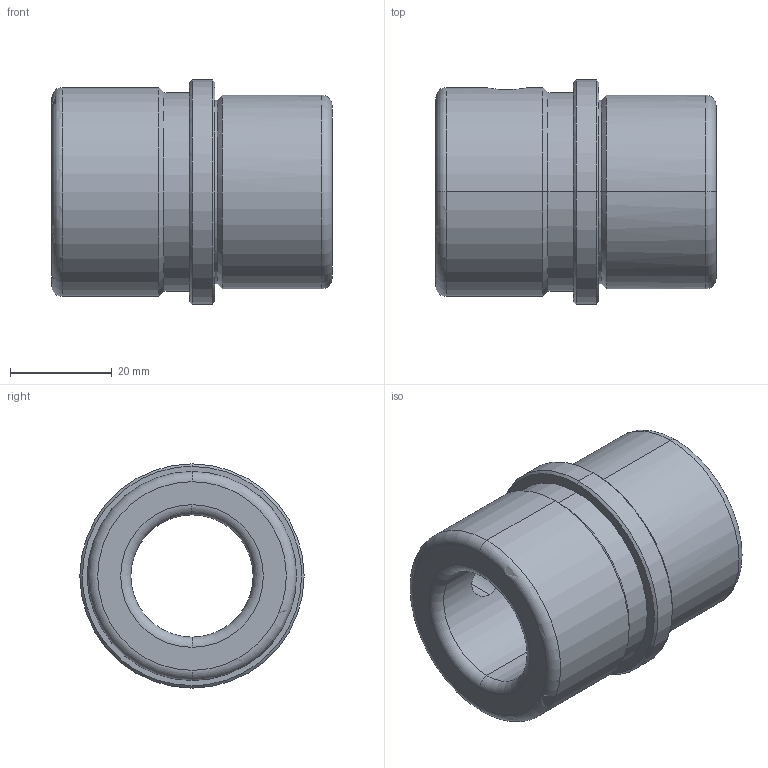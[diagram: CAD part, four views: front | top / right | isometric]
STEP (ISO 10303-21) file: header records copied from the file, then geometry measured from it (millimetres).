
FILE_DESCRIPTION(('CATIA V5 STEP Exchange'),'2;1');
FILE_NAME('C:\Users\Utente\Desktop\IO LAVORO\3D X SITO CF\X SITO\CF 641\CF 641 24 x 55.stp','2020-12-26T14:47:49+00:00',('none'),('none'),'CATIA Version 5 Release 20 GA (IN-10)','CATIA V5 STEP AP203','none');
FILE_SCHEMA(('CONFIG_CONTROL_DESIGN'));
Length unit declared in the file: millimetre
Products named in the file (1): CF 641 24 x 55
Bounding box: 55 x 44 x 44 mm (x, y, z)
Volume: 42576.6 mm3; surface area: 13356.9 mm2
Topology: 1 solids, 1 shells, 37 faces, 126 edges, 94 vertices
Faces by surface type: cylinder 14, cone 10, torus 8, plane 5
Entity records: 1651 total; most frequent: CARTESIAN_POINT 523, ORIENTED_EDGE 252, DIRECTION 178, EDGE_CURVE 126, AXIS2_PLACEMENT_3D 118, VERTEX_POINT 94, CIRCLE 80, EDGE_LOOP 44
